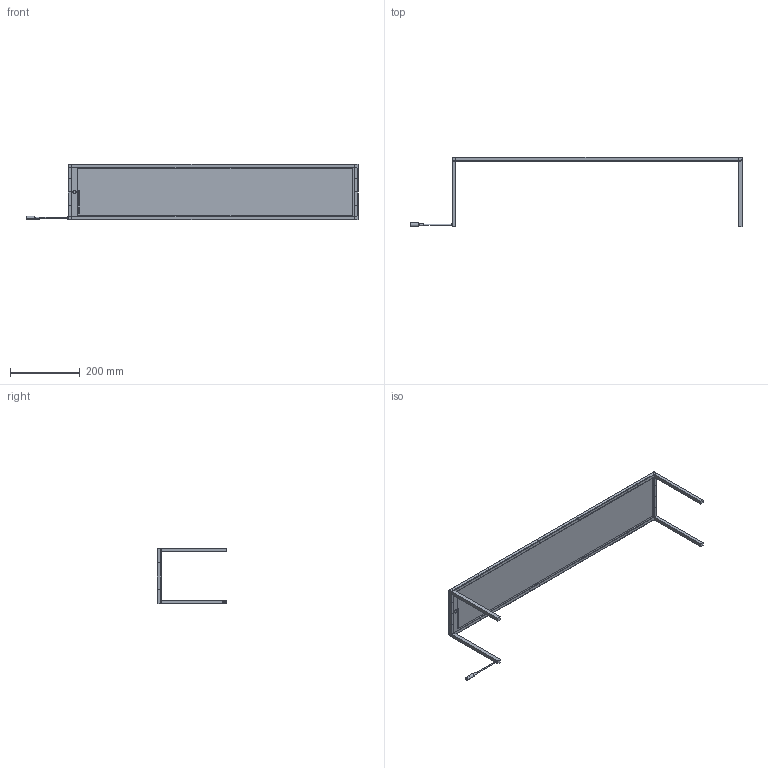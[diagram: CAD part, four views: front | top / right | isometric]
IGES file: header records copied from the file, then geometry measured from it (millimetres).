
Start section: SolidWorks IGES file using analytic representation for surfaces
Global section: file name: C:\Users\bernat.bisbal\Desktop\BLANCOWHITE R3 TABLE_3D.IGS; native system: SolidWorks 2015; preprocessor: SolidWorks 2015; author: bernat.bisbal; date: 160629.105815; units: millimetre
Bounding box: 955 x 200 x 160 mm (x, y, z)
Surface area: 472333.5 mm2 (no closed solid volume)
Topology: 0 solids, 0 shells, 171 faces, 2249 edges, 2249 vertices
Faces by surface type: bspline 145, revolution 26
